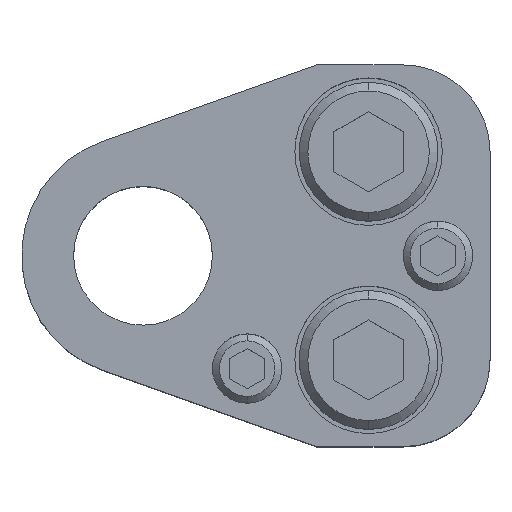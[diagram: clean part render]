
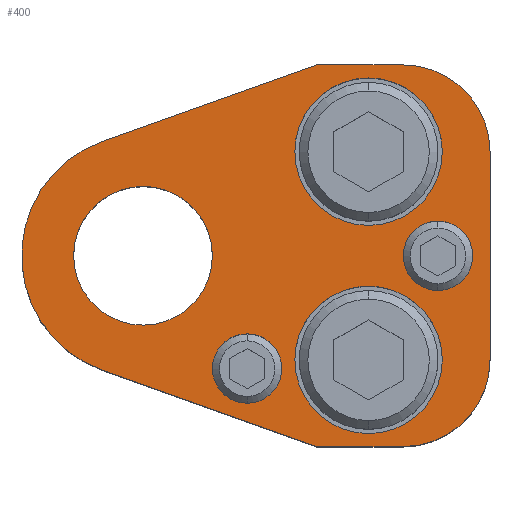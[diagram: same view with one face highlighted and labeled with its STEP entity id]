
A CAD part, top view. The second image highlights one B-rep face of the part: STEP entity #400.
In plain terms, the highlighted planar face has unit normal (0, 0, 1).
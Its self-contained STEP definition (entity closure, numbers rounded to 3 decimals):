
#192=FACE_BOUND('',#715,.T.);
#193=FACE_BOUND('',#716,.T.);
#194=FACE_BOUND('',#717,.T.);
#195=FACE_BOUND('',#718,.T.);
#196=FACE_BOUND('',#719,.T.);
#197=FACE_BOUND('',#720,.T.);
#246=CIRCLE('',#2264,14.);
#248=CIRCLE('',#2269,10.);
#250=CIRCLE('',#2273,10.);
#252=CIRCLE('',#2278,4.);
#254=CIRCLE('',#2281,4.);
#256=CIRCLE('',#2284,4.);
#258=CIRCLE('',#2287,4.);
#268=CIRCLE('',#2302,8.5);
#269=CIRCLE('',#2303,8.5);
#270=CIRCLE('',#2304,8.5);
#271=CIRCLE('',#2305,8.5);
#272=CIRCLE('',#2306,8.);
#273=CIRCLE('',#2307,8.);
#400=ADVANCED_FACE('',(#192,#193,#194,#195,#196,#197),#512,.T.);
#512=PLANE('',#2308);
#715=EDGE_LOOP('',(#1019,#1020,#1021,#1022,#1023,#1024,#1025,#1026));
#716=EDGE_LOOP('',(#1027,#1028));
#717=EDGE_LOOP('',(#1029,#1030));
#718=EDGE_LOOP('',(#1031,#1032));
#719=EDGE_LOOP('',(#1033,#1034));
#720=EDGE_LOOP('',(#1035,#1036));
#1019=ORIENTED_EDGE('',*,*,#1662,.T.);
#1020=ORIENTED_EDGE('',*,*,#1666,.T.);
#1021=ORIENTED_EDGE('',*,*,#1669,.T.);
#1022=ORIENTED_EDGE('',*,*,#1672,.T.);
#1023=ORIENTED_EDGE('',*,*,#1675,.T.);
#1024=ORIENTED_EDGE('',*,*,#1678,.T.);
#1025=ORIENTED_EDGE('',*,*,#1681,.T.);
#1026=ORIENTED_EDGE('',*,*,#1684,.T.);
#1027=ORIENTED_EDGE('',*,*,#1709,.F.);
#1028=ORIENTED_EDGE('',*,*,#1710,.F.);
#1029=ORIENTED_EDGE('',*,*,#1711,.F.);
#1030=ORIENTED_EDGE('',*,*,#1712,.F.);
#1031=ORIENTED_EDGE('',*,*,#1695,.F.);
#1032=ORIENTED_EDGE('',*,*,#1691,.F.);
#1033=ORIENTED_EDGE('',*,*,#1689,.F.);
#1034=ORIENTED_EDGE('',*,*,#1685,.F.);
#1035=ORIENTED_EDGE('',*,*,#1713,.T.);
#1036=ORIENTED_EDGE('',*,*,#1714,.T.);
#1452=VERTEX_POINT('',#3298);
#1453=VERTEX_POINT('',#3300);
#1456=VERTEX_POINT('',#3307);
#1458=VERTEX_POINT('',#3313);
#1460=VERTEX_POINT('',#3319);
#1462=VERTEX_POINT('',#3325);
#1464=VERTEX_POINT('',#3331);
#1466=VERTEX_POINT('',#3337);
#1467=VERTEX_POINT('',#3345);
#1468=VERTEX_POINT('',#3346);
#1471=VERTEX_POINT('',#3357);
#1472=VERTEX_POINT('',#3358);
#1483=VERTEX_POINT('',#3393);
#1484=VERTEX_POINT('',#3394);
#1485=VERTEX_POINT('',#3397);
#1486=VERTEX_POINT('',#3398);
#1487=VERTEX_POINT('',#3401);
#1488=VERTEX_POINT('',#3402);
#1662=EDGE_CURVE('',#1453,#1452,#246,.T.);
#1666=EDGE_CURVE('',#1452,#1456,#1940,.T.);
#1669=EDGE_CURVE('',#1456,#1458,#1943,.T.);
#1672=EDGE_CURVE('',#1458,#1460,#248,.T.);
#1675=EDGE_CURVE('',#1460,#1462,#1947,.T.);
#1678=EDGE_CURVE('',#1462,#1464,#250,.T.);
#1681=EDGE_CURVE('',#1464,#1466,#1951,.T.);
#1684=EDGE_CURVE('',#1466,#1453,#1954,.T.);
#1685=EDGE_CURVE('',#1467,#1468,#252,.T.);
#1689=EDGE_CURVE('',#1468,#1467,#254,.T.);
#1691=EDGE_CURVE('',#1471,#1472,#256,.T.);
#1695=EDGE_CURVE('',#1472,#1471,#258,.T.);
#1709=EDGE_CURVE('',#1483,#1484,#268,.T.);
#1710=EDGE_CURVE('',#1484,#1483,#269,.T.);
#1711=EDGE_CURVE('',#1485,#1486,#270,.T.);
#1712=EDGE_CURVE('',#1486,#1485,#271,.T.);
#1713=EDGE_CURVE('',#1487,#1488,#272,.T.);
#1714=EDGE_CURVE('',#1488,#1487,#273,.T.);
#1940=LINE('',#3308,#2104);
#1943=LINE('',#3314,#2107);
#1947=LINE('',#3326,#2111);
#1951=LINE('',#3338,#2115);
#1954=LINE('',#3342,#2118);
#2104=VECTOR('',#2628,1.);
#2107=VECTOR('',#2633,1.);
#2111=VECTOR('',#2645,1.);
#2115=VECTOR('',#2657,1.);
#2118=VECTOR('',#2662,1.);
#2264=AXIS2_PLACEMENT_3D('',#3299,#2620,#2621);
#2269=AXIS2_PLACEMENT_3D('',#3320,#2638,#2639);
#2273=AXIS2_PLACEMENT_3D('',#3332,#2650,#2651);
#2278=AXIS2_PLACEMENT_3D('',#3344,#2665,#2666);
#2281=AXIS2_PLACEMENT_3D('',#3353,#2673,#2674);
#2284=AXIS2_PLACEMENT_3D('',#3356,#2679,#2680);
#2287=AXIS2_PLACEMENT_3D('',#3365,#2687,#2688);
#2302=AXIS2_PLACEMENT_3D('',#3392,#2721,#2722);
#2303=AXIS2_PLACEMENT_3D('',#3395,#2723,#2724);
#2304=AXIS2_PLACEMENT_3D('',#3396,#2725,#2726);
#2305=AXIS2_PLACEMENT_3D('',#3399,#2727,#2728);
#2306=AXIS2_PLACEMENT_3D('',#3400,#2729,#2730);
#2307=AXIS2_PLACEMENT_3D('',#3403,#2731,#2732);
#2308=AXIS2_PLACEMENT_3D('',#3404,#2733,#2734);
#2620=DIRECTION('',(0.,0.,1.));
#2621=DIRECTION('',(0.,1.,0.));
#2628=DIRECTION('',(0.942,-0.336,0.));
#2633=DIRECTION('',(1.,0.,0.));
#2638=DIRECTION('',(0.,0.,1.));
#2639=DIRECTION('',(-0.707,0.707,0.));
#2645=DIRECTION('',(0.,1.,0.));
#2650=DIRECTION('',(0.,0.,1.));
#2651=DIRECTION('',(-0.707,-0.707,0.));
#2657=DIRECTION('',(-1.,0.,0.));
#2662=DIRECTION('',(-0.942,-0.336,0.));
#2665=DIRECTION('',(0.,0.,1.));
#2666=DIRECTION('',(1.,0.,0.));
#2673=DIRECTION('',(0.,0.,1.));
#2674=DIRECTION('',(-1.,0.,0.));
#2679=DIRECTION('',(0.,0.,1.));
#2680=DIRECTION('',(1.,0.,0.));
#2687=DIRECTION('',(0.,0.,1.));
#2688=DIRECTION('',(-1.,0.,0.));
#2721=DIRECTION('',(0.,0.,1.));
#2722=DIRECTION('',(1.,0.,0.));
#2723=DIRECTION('',(0.,0.,1.));
#2724=DIRECTION('',(-1.,0.,0.));
#2725=DIRECTION('',(0.,0.,1.));
#2726=DIRECTION('',(1.,0.,0.));
#2727=DIRECTION('',(0.,0.,1.));
#2728=DIRECTION('',(-1.,0.,0.));
#2729=DIRECTION('',(0.,0.,-1.));
#2730=DIRECTION('',(-1.,0.,0.));
#2731=DIRECTION('',(0.,0.,-1.));
#2732=DIRECTION('',(1.,0.,0.));
#2733=DIRECTION('',(0.,0.,1.));
#2734=DIRECTION('',(0.942,0.336,0.));
#3298=CARTESIAN_POINT('',(-4.704,-13.186,30.));
#3299=CARTESIAN_POINT('',(0.,0.,30.));
#3300=CARTESIAN_POINT('',(-4.704,13.186,30.));
#3307=CARTESIAN_POINT('',(20.,-22.,30.));
#3308=CARTESIAN_POINT('',(20.,-22.,30.));
#3313=CARTESIAN_POINT('',(30.,-22.,30.));
#3314=CARTESIAN_POINT('',(20.,-22.,30.));
#3319=CARTESIAN_POINT('',(40.,-12.,30.));
#3320=CARTESIAN_POINT('',(30.,-12.,30.));
#3325=CARTESIAN_POINT('',(40.,12.,30.));
#3326=CARTESIAN_POINT('',(40.,-12.,30.));
#3331=CARTESIAN_POINT('',(30.,22.,30.));
#3332=CARTESIAN_POINT('',(30.,12.,30.));
#3337=CARTESIAN_POINT('',(20.,22.,30.));
#3338=CARTESIAN_POINT('',(20.,22.,30.));
#3342=CARTESIAN_POINT('',(20.,22.,30.));
#3344=CARTESIAN_POINT('',(12.,-13.,30.));
#3345=CARTESIAN_POINT('',(12.,-9.,30.));
#3346=CARTESIAN_POINT('',(12.,-17.,30.));
#3353=CARTESIAN_POINT('',(12.,-13.,30.));
#3356=CARTESIAN_POINT('',(34.,0.,30.));
#3357=CARTESIAN_POINT('',(34.,4.,30.));
#3358=CARTESIAN_POINT('',(34.,-4.,30.));
#3365=CARTESIAN_POINT('',(34.,0.,30.));
#3392=CARTESIAN_POINT('',(26.,-12.,30.));
#3393=CARTESIAN_POINT('',(26.,-3.5,30.));
#3394=CARTESIAN_POINT('',(26.,-20.5,30.));
#3395=CARTESIAN_POINT('',(26.,-12.,30.));
#3396=CARTESIAN_POINT('',(26.,12.,30.));
#3397=CARTESIAN_POINT('',(26.,20.5,30.));
#3398=CARTESIAN_POINT('',(26.,3.5,30.));
#3399=CARTESIAN_POINT('',(26.,12.,30.));
#3400=CARTESIAN_POINT('',(0.,0.,30.));
#3401=CARTESIAN_POINT('',(0.,8.,30.));
#3402=CARTESIAN_POINT('',(0.,-8.,30.));
#3403=CARTESIAN_POINT('',(0.,0.,30.));
#3404=CARTESIAN_POINT('',(-4.704,13.186,30.));
